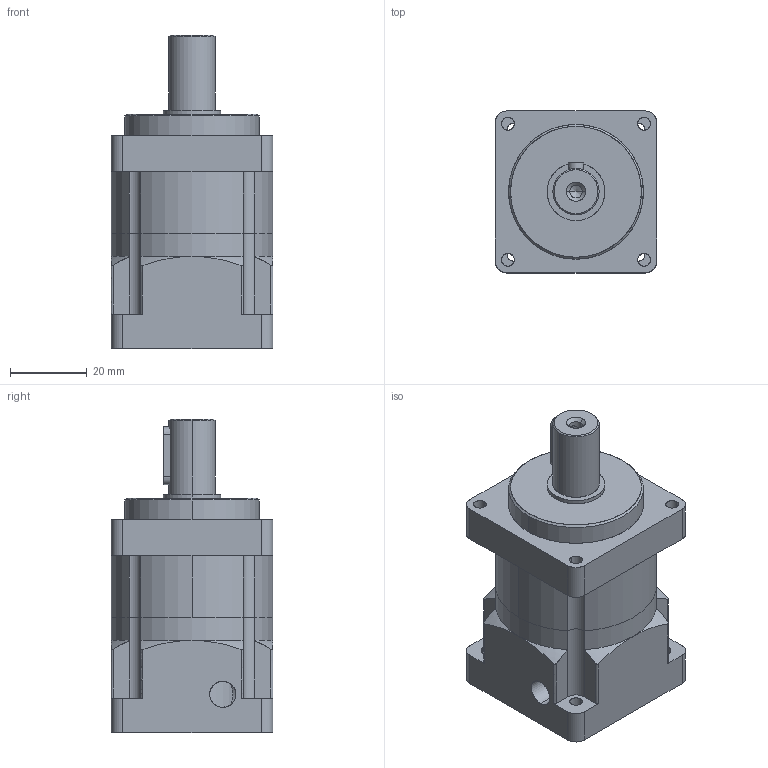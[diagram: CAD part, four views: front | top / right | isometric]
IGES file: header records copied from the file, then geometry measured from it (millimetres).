
Start section: SolidWorks IGES file using analytic representation for surfaces
Global section: file name: C:\Users\render\Documents\CAD Files\S-Gearboxes\SL-040-005\SL-040-005.IGS; native system: SolidWorks 2009; preprocessor: SolidWorks 2009; author: render; date: 100519.113158; units: millimetre
Bounding box: 42 x 42 x 81.5 mm (x, y, z)
Surface area: 27522.3 mm2 (no closed solid volume)
Topology: 0 solids, 0 shells, 141 faces, 2387 edges, 2384 vertices
Faces by surface type: revolution 92, bspline 49
